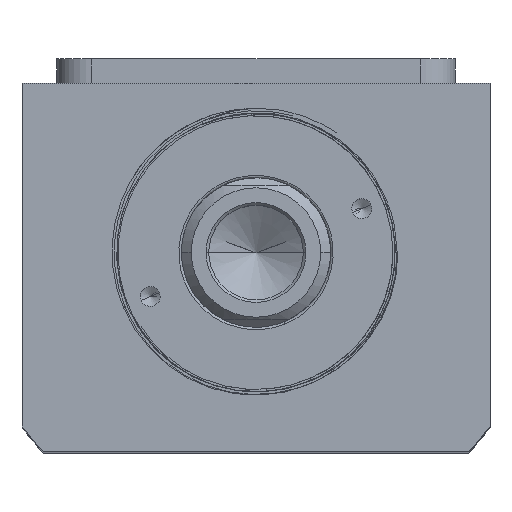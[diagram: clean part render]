
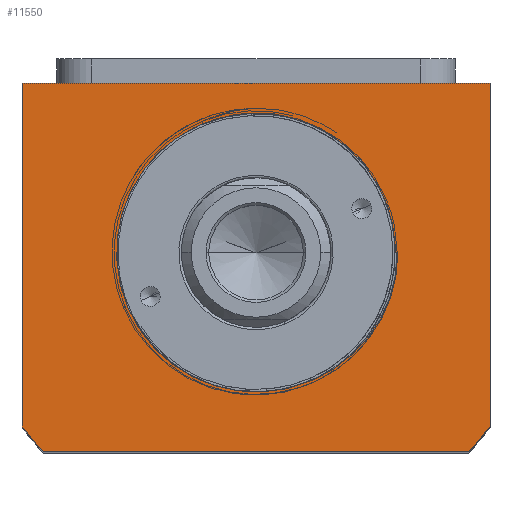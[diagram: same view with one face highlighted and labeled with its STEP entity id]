
A CAD part, top view. The second image highlights one B-rep face of the part: STEP entity #11550.
In plain terms, the highlighted planar face has unit normal (0, 0, 1).
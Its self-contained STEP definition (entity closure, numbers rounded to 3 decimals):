
#32 = DIRECTION ( 'NONE',  ( 1., 0., 0. ) ) ;
#75 = CARTESIAN_POINT ( 'NONE',  ( 28.485, -0.71, 87.5 ) ) ;
#116 = CARTESIAN_POINT ( 'NONE',  ( 28.449, -1.419, 87.5 ) ) ;
#165 = CARTESIAN_POINT ( 'NONE',  ( 10.232, -26.064, 87.5 ) ) ;
#201 = CARTESIAN_POINT ( 'NONE',  ( 27.555, -6.99, 87.5 ) ) ;
#212 = VERTEX_POINT ( 'NONE', #4631 ) ;
#735 = CARTESIAN_POINT ( 'NONE',  ( 0., 0., 87.5 ) ) ;
#859 = EDGE_CURVE ( 'NONE', #6488, #2804, #5598, .T. ) ;
#873 = B_SPLINE_CURVE_WITH_KNOTS ( 'NONE', 3,
 ( #5440, #75, #116, #10003, #6513, #10119, #201, #8261, #5606, #8193, #9964, #6465, #7406, #10077, #5644, #3683, #6386, #4587, #5481, #7442, #10862, #1029, #9161, #3800 ),
 .UNSPECIFIED., .F., .F.,
 ( 4, 2, 2, 2, 2, 2, 2, 2, 2, 2, 2, 4 ),
 ( 0., 0.002, 0.004, 0.009, 0.013, 0.017, 0.021, 0.023, 0.026, 0.03, 0.032, 0.034 ),
 .UNSPECIFIED. ) ;
#903 = CARTESIAN_POINT ( 'NONE',  ( 0., 0., 87.5 ) ) ;
#1029 = CARTESIAN_POINT ( 'NONE',  ( 11.542, -25.544, 87.5 ) ) ;
#1147 = CARTESIAN_POINT ( 'NONE',  ( 28.495, 0., 87.5 ) ) ;
#1163 = LINE ( 'NONE', #8603, #5636 ) ;
#1418 = FACE_BOUND ( 'NONE', #8655, .T. ) ;
#1570 = LINE ( 'NONE', #10178, #1710 ) ;
#1710 = VECTOR ( 'NONE', #7930, 1000. ) ;
#1746 = DIRECTION ( 'NONE',  ( 1., 0., 0. ) ) ;
#1827 = CARTESIAN_POINT ( 'NONE',  ( 42.688, -40., 87.5 ) ) ;
#2012 = AXIS2_PLACEMENT_3D ( 'NONE', #735, #7107, #1746 ) ;
#2095 = EDGE_CURVE ( 'NONE', #7166, #5275, #9265, .T. ) ;
#2134 = ORIENTED_EDGE ( 'NONE', *, *, #10741, .T. ) ;
#2213 = CARTESIAN_POINT ( 'NONE',  ( 47., -34.832, 87.5 ) ) ;
#2309 = EDGE_CURVE ( 'NONE', #7216, #212, #4179, .T. ) ;
#2346 = DIRECTION ( 'NONE',  ( 1., 0., 0. ) ) ;
#2523 = ORIENTED_EDGE ( 'NONE', *, *, #859, .T. ) ;
#2792 = CARTESIAN_POINT ( 'NONE',  ( -47., 34., 87.5 ) ) ;
#2804 = VERTEX_POINT ( 'NONE', #2213 ) ;
#2932 = EDGE_CURVE ( 'NONE', #2804, #4490, #1163, .T. ) ;
#3494 = CARTESIAN_POINT ( 'NONE',  ( -42.688, -40., 87.5 ) ) ;
#3514 = FACE_OUTER_BOUND ( 'NONE', #8563, .T. ) ;
#3541 = ORIENTED_EDGE ( 'NONE', *, *, #6020, .T. ) ;
#3617 = VECTOR ( 'NONE', #8082, 1000. ) ;
#3683 = CARTESIAN_POINT ( 'NONE',  ( 18.667, -21.077, 87.5 ) ) ;
#3800 = CARTESIAN_POINT ( 'NONE',  ( 10.232, -26.064, 87.5 ) ) ;
#3987 = DIRECTION ( 'NONE',  ( -1., 0., 0. ) ) ;
#4056 = PLANE ( 'NONE',  #9294 ) ;
#4179 = LINE ( 'NONE', #7187, #3617 ) ;
#4201 = CARTESIAN_POINT ( 'NONE',  ( 47., 34., 87.5 ) ) ;
#4490 = VERTEX_POINT ( 'NONE', #4201 ) ;
#4587 = CARTESIAN_POINT ( 'NONE',  ( 16.467, -22.819, 87.5 ) ) ;
#4631 = CARTESIAN_POINT ( 'NONE',  ( -47., -34.832, 87.5 ) ) ;
#4745 = ORIENTED_EDGE ( 'NONE', *, *, #2095, .T. ) ;
#5103 = VECTOR ( 'NONE', #8088, 1000. ) ;
#5275 = VERTEX_POINT ( 'NONE', #10658 ) ;
#5325 = ORIENTED_EDGE ( 'NONE', *, *, #2309, .T. ) ;
#5440 = CARTESIAN_POINT ( 'NONE',  ( 28.495, 0., 87.5 ) ) ;
#5481 = CARTESIAN_POINT ( 'NONE',  ( 15.3, -23.593, 87.5 ) ) ;
#5598 = CIRCLE ( 'NONE', #11328, 58.5 ) ;
#5606 = CARTESIAN_POINT ( 'NONE',  ( 26.163, -10.961, 87.5 ) ) ;
#5636 = VECTOR ( 'NONE', #7530, 1000. ) ;
#5644 = CARTESIAN_POINT ( 'NONE',  ( 19.714, -20.129, 87.5 ) ) ;
#5664 = EDGE_CURVE ( 'NONE', #8796, #5275, #7769, .T. ) ;
#5920 = CARTESIAN_POINT ( 'NONE',  ( 42.688, -40., 87.5 ) ) ;
#6020 = EDGE_CURVE ( 'NONE', #7037, #6488, #11431, .T. ) ;
#6240 = DIRECTION ( 'NONE',  ( 0., 0., 1. ) ) ;
#6386 = CARTESIAN_POINT ( 'NONE',  ( 18.129, -21.529, 87.5 ) ) ;
#6465 = CARTESIAN_POINT ( 'NONE',  ( 22.571, -17.007, 87.5 ) ) ;
#6488 = VERTEX_POINT ( 'NONE', #5920 ) ;
#6513 = CARTESIAN_POINT ( 'NONE',  ( 28.233, -3.538, 87.5 ) ) ;
#6736 = CARTESIAN_POINT ( 'NONE',  ( 0., 0., 87.5 ) ) ;
#7037 = VERTEX_POINT ( 'NONE', #3494 ) ;
#7107 = DIRECTION ( 'NONE',  ( 0., 0., -1. ) ) ;
#7166 = VERTEX_POINT ( 'NONE', #165 ) ;
#7187 = CARTESIAN_POINT ( 'NONE',  ( -47., -34.832, 87.5 ) ) ;
#7216 = VERTEX_POINT ( 'NONE', #2792 ) ;
#7406 = CARTESIAN_POINT ( 'NONE',  ( 21.684, -18.094, 87.5 ) ) ;
#7442 = CARTESIAN_POINT ( 'NONE',  ( 13.459, -24.624, 87.5 ) ) ;
#7530 = DIRECTION ( 'NONE',  ( 0., 1., 0. ) ) ;
#7601 = AXIS2_PLACEMENT_3D ( 'NONE', #10642, #6240, #9903 ) ;
#7697 = DIRECTION ( 'NONE',  ( 0., 0., 1. ) ) ;
#7699 = ORIENTED_EDGE ( 'NONE', *, *, #5664, .F. ) ;
#7769 = LINE ( 'NONE', #6736, #11144 ) ;
#7930 = DIRECTION ( 'NONE',  ( -1., 0., 0. ) ) ;
#8025 = CIRCLE ( 'NONE', #7601, 58.5 ) ;
#8082 = DIRECTION ( 'NONE',  ( 0., -1., 0. ) ) ;
#8088 = DIRECTION ( 'NONE',  ( 1., 0., 0. ) ) ;
#8193 = CARTESIAN_POINT ( 'NONE',  ( 24.898, -13.504, 87.5 ) ) ;
#8261 = CARTESIAN_POINT ( 'NONE',  ( 26.694, -9.657, 87.5 ) ) ;
#8563 = EDGE_LOOP ( 'NONE', ( #2134, #5325, #8718, #3541, #2523, #11635 ) ) ;
#8603 = CARTESIAN_POINT ( 'NONE',  ( 47., 34., 87.5 ) ) ;
#8655 = EDGE_LOOP ( 'NONE', ( #7699, #9379, #4745 ) ) ;
#8718 = ORIENTED_EDGE ( 'NONE', *, *, #9905, .T. ) ;
#8727 = EDGE_CURVE ( 'NONE', #8796, #7166, #873, .T. ) ;
#8796 = VERTEX_POINT ( 'NONE', #1147 ) ;
#9161 = CARTESIAN_POINT ( 'NONE',  ( 10.89, -25.816, 87.5 ) ) ;
#9265 = CIRCLE ( 'NONE', #2012, 28. ) ;
#9294 = AXIS2_PLACEMENT_3D ( 'NONE', #10378, #7697, #2346 ) ;
#9379 = ORIENTED_EDGE ( 'NONE', *, *, #8727, .T. ) ;
#9903 = DIRECTION ( 'NONE',  ( 1., 0., 0. ) ) ;
#9905 = EDGE_CURVE ( 'NONE', #212, #7037, #8025, .T. ) ;
#9964 = CARTESIAN_POINT ( 'NONE',  ( 24.178, -14.712, 87.5 ) ) ;
#10003 = CARTESIAN_POINT ( 'NONE',  ( 28.323, -2.832, 87.5 ) ) ;
#10077 = CARTESIAN_POINT ( 'NONE',  ( 20.224, -19.631, 87.5 ) ) ;
#10119 = CARTESIAN_POINT ( 'NONE',  ( 27.887, -5.628, 87.5 ) ) ;
#10178 = CARTESIAN_POINT ( 'NONE',  ( -47., 34., 87.5 ) ) ;
#10378 = CARTESIAN_POINT ( 'NONE',  ( 0., 0., 87.5 ) ) ;
#10619 = DIRECTION ( 'NONE',  ( 0., 0., 1. ) ) ;
#10642 = CARTESIAN_POINT ( 'NONE',  ( 0., 0., 87.5 ) ) ;
#10658 = CARTESIAN_POINT ( 'NONE',  ( 28., 0., 87.5 ) ) ;
#10741 = EDGE_CURVE ( 'NONE', #4490, #7216, #1570, .T. ) ;
#10862 = CARTESIAN_POINT ( 'NONE',  ( 12.831, -24.945, 87.5 ) ) ;
#11144 = VECTOR ( 'NONE', #3987, 1000. ) ;
#11328 = AXIS2_PLACEMENT_3D ( 'NONE', #903, #10619, #32 ) ;
#11431 = LINE ( 'NONE', #1827, #5103 ) ;
#11550 = ADVANCED_FACE ( 'NONE', ( #1418, #3514 ), #4056, .T. ) ;
#11635 = ORIENTED_EDGE ( 'NONE', *, *, #2932, .T. ) ;
